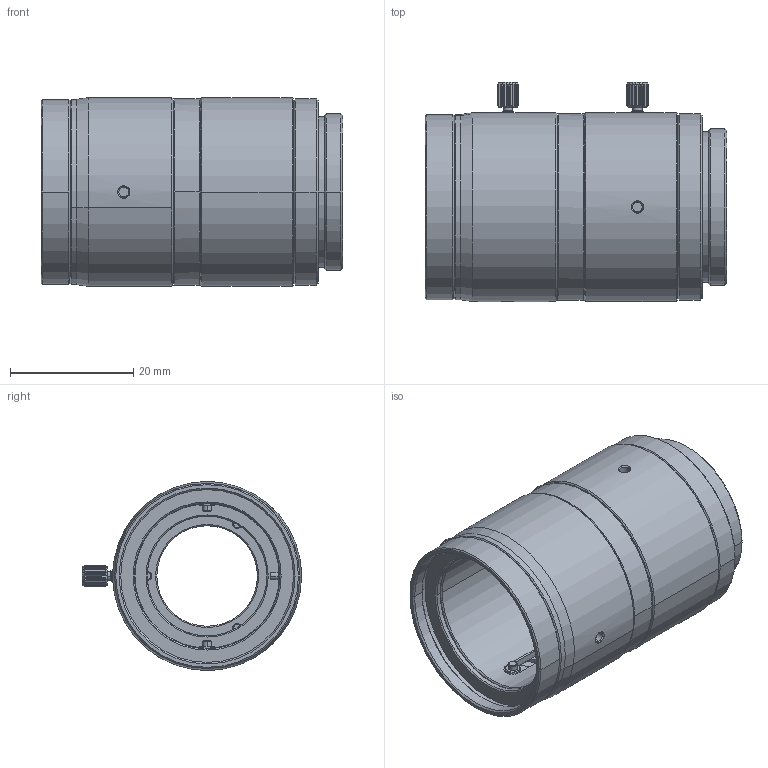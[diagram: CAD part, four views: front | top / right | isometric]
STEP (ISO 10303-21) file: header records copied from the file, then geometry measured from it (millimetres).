
FILE_DESCRIPTION((''),'2;1');
FILE_NAME('200_ASM','2017-10-25T',('ZHU'),(''),'PRO/ENGINEER BY PARAMETRIC TECHNOLOGY CORPORATION, 2010020','PRO/ENGINEER BY PARAMETRIC TECHNOLOGY CORPORATION, 2010020','');
FILE_SCHEMA(('CONFIG_CONTROL_DESIGN'));
Length unit declared in the file: millimetre
Products named in the file (11): 503; 202_ASM; FA5002A-521-V1; M14252001; 504; 505; FA7501A-541; 506; 507; FA1601C-531; 200_ASM
Assembly tree (16 placements, depth 2):
  200_ASM
    503
    202_ASM
    FA5002A-521-V1  x2
    M14252001  x5
    504
    505
    FA7501A-541
    506
    507
    FA1601C-531  x2
Bounding box: 48.9 x 35.5 x 30.6 mm (x, y, z)
Volume: 13420.8 mm3; surface area: 18848.3 mm2
Topology: 15 solids, 28 shells, 639 faces, 1604 edges, 1022 vertices
Faces by surface type: plane 233, cylinder 211, cone 157, bspline 38
Entity records: 17464 total; most frequent: CARTESIAN_POINT 6613, DIRECTION 2216, ORIENTED_EDGE 2166, EDGE_CURVE 1120, AXIS2_PLACEMENT_3D 879, VERTEX_POINT 710, EDGE_LOOP 507, VECTOR 458
